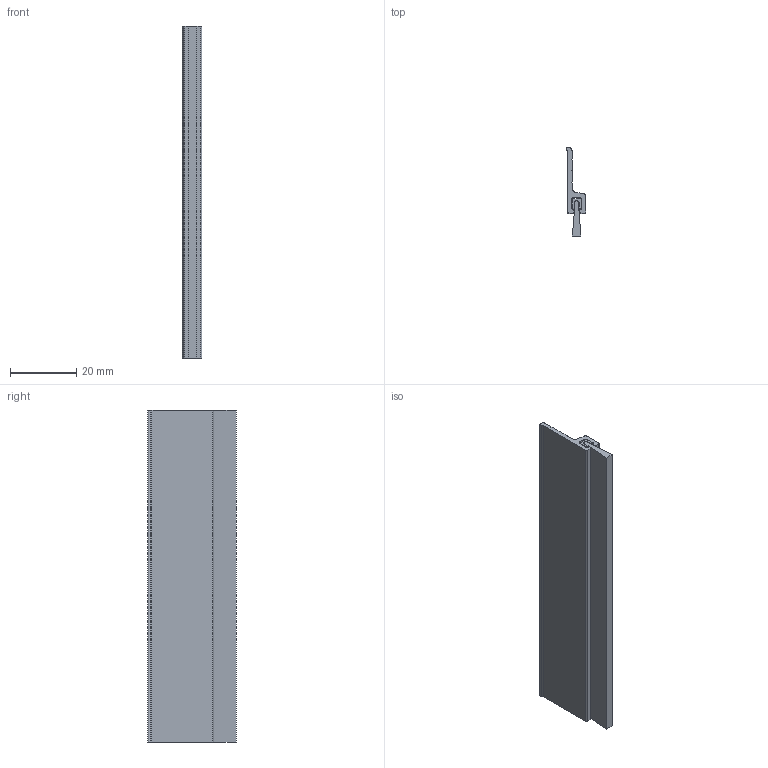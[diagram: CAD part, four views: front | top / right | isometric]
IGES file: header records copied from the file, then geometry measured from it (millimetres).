
Global section: file name: No Iges File Name specified; native system: Autodesk Inventor 2012; preprocessor: AutoDesk Inventor Iges Exporter R2012; author: anna.b; date: 20131114.142701; units: millimetre
Bounding box: 5.88 x 26.69 x 100 mm (x, y, z)
Volume: 6212.6 mm3; surface area: 10081 mm2
Topology: 3 solids, 3 shells, 60 faces, 162 edges, 108 vertices
Faces by surface type: plane 39, cylinder 14, revolution 7
